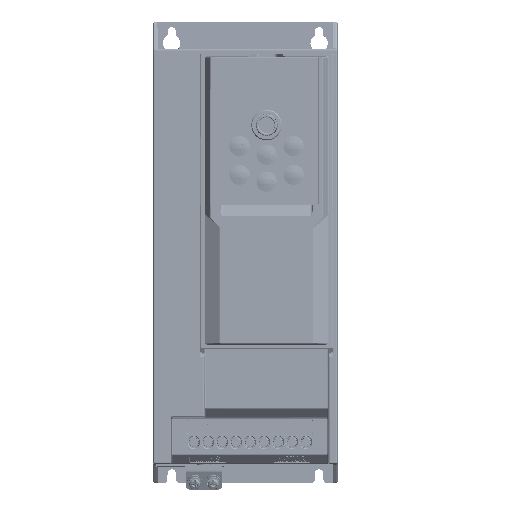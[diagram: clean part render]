
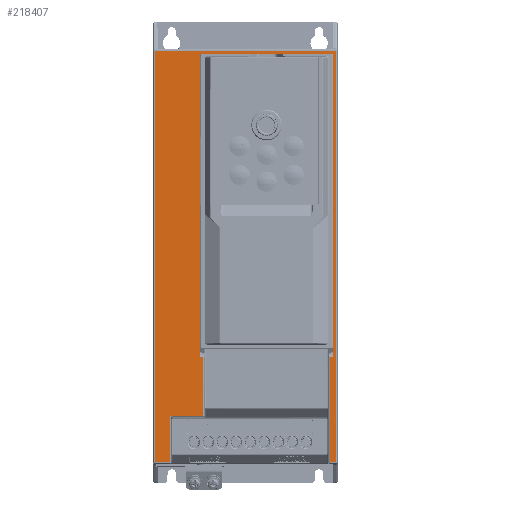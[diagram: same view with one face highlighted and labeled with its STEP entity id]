
A CAD part, top view. The second image highlights one B-rep face of the part: STEP entity #218407.
In plain terms, the highlighted planar face has unit normal (0, 0, 1).
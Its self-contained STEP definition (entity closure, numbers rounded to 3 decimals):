
#25640=DIRECTION('',(-1.,0.,0.));
#25641=VECTOR('',#25640,1.694);
#25642=CARTESIAN_POINT('',(36.129,-164.399,0.));
#25643=LINE('',#25642,#25641);
#25647=DIRECTION('',(-1.,0.,0.));
#25648=VECTOR('',#25647,70.658);
#25649=CARTESIAN_POINT('',(35.329,0.129,0.));
#25650=LINE('',#25649,#25648);
#25654=DIRECTION('',(1.,0.,0.));
#25655=VECTOR('',#25654,1.694);
#25656=CARTESIAN_POINT('',(-36.129,-164.399,0.));
#25657=LINE('',#25656,#25655);
#25661=DIRECTION('',(0.,-1.,0.));
#25662=VECTOR('',#25661,31.939);
#25663=CARTESIAN_POINT('',(-34.435,-164.399,0.));
#25664=LINE('',#25663,#25662);
#25668=DIRECTION('',(1.,0.,0.));
#25669=VECTOR('',#25668,16.627);
#25670=CARTESIAN_POINT('',(-51.062,-196.339,
0.));
#25671=LINE('',#25670,#25669);
#25675=CARTESIAN_POINT('',(-52.661,-197.938,
0.));
#25676=CARTESIAN_POINT('',(-52.661,-197.78,
0.));
#25677=CARTESIAN_POINT('',(-52.618,-197.482,
0.));
#25678=CARTESIAN_POINT('',(-52.424,-197.061,
0.));
#25679=CARTESIAN_POINT('',(-52.153,-196.747,
0.));
#25680=CARTESIAN_POINT('',(-51.847,-196.529,
0.));
#25681=CARTESIAN_POINT('',(-51.5,-196.383,
0.));
#25682=CARTESIAN_POINT('',(-51.215,-196.339,
0.));
#25683=CARTESIAN_POINT('',(-51.062,-196.339,
0.));
#25688=DIRECTION('',(0.,1.,0.));
#25689=VECTOR('',#25688,23.762);
#25690=CARTESIAN_POINT('',(-52.661,-221.7,0.));
#25691=LINE('',#25690,#25689);
#25695=DIRECTION('',(1.,0.,0.));
#25696=VECTOR('',#25695,8.039);
#25697=CARTESIAN_POINT('',(-60.7,-221.7,0.));
#25698=LINE('',#25697,#25696);
#25702=DIRECTION('',(0.,-1.,0.));
#25703=VECTOR('',#25702,223.4);
#25704=CARTESIAN_POINT('',(-60.7,1.7,0.));
#25705=LINE('',#25704,#25703);
#25709=DIRECTION('',(-1.,0.,0.));
#25710=VECTOR('',#25709,98.4);
#25711=CARTESIAN_POINT('',(37.7,1.7,0.));
#25712=LINE('',#25711,#25710);
#25716=DIRECTION('',(0.,1.,0.));
#25717=VECTOR('',#25716,223.4);
#25718=CARTESIAN_POINT('',(37.7,-221.7,0.));
#25719=LINE('',#25718,#25717);
#25723=DIRECTION('',(1.,0.,0.));
#25724=VECTOR('',#25723,3.265);
#25725=CARTESIAN_POINT('',(34.435,-221.7,0.));
#25726=LINE('',#25725,#25724);
#25730=DIRECTION('',(0.,-1.,0.));
#25731=VECTOR('',#25730,57.301);
#25732=CARTESIAN_POINT('',(34.435,-164.399,0.));
#25733=LINE('',#25732,#25731);
#79410=CARTESIAN_POINT('',(-34.435,-164.399,0.));
#81117=DIRECTION('',(0.,1.,0.));
#81118=VECTOR('',#81117,163.728);
#81119=CARTESIAN_POINT('',(-36.129,-164.399,0.));
#81120=LINE('',#81119,#81118);
#81163=CARTESIAN_POINT('',(-36.129,-0.671,0.));
#81164=CARTESIAN_POINT('',(-36.129,-0.404,0.));
#81165=CARTESIAN_POINT('',(-35.927,-0.073,0.));
#81166=CARTESIAN_POINT('',(-35.596,0.129,0.));
#81167=CARTESIAN_POINT('',(-35.329,0.129,0.));
#81186=CARTESIAN_POINT('',(35.329,0.129,0.));
#81187=CARTESIAN_POINT('',(35.596,0.129,0.));
#81188=CARTESIAN_POINT('',(35.927,-0.073,0.));
#81189=CARTESIAN_POINT('',(36.129,-0.404,0.));
#81190=CARTESIAN_POINT('',(36.129,-0.671,0.));
#81195=DIRECTION('',(0.,-1.,0.));
#81196=VECTOR('',#81195,163.728);
#81197=CARTESIAN_POINT('',(36.129,-0.671,0.));
#81198=LINE('',#81197,#81196);
#81256=CARTESIAN_POINT('',(34.435,-164.399,0.));
#198826=CARTESIAN_POINT('',(-36.129,-0.671,0.));
#198827=VERTEX_POINT('',#198826);
#198828=CARTESIAN_POINT('',(-35.329,0.129,0.));
#198829=VERTEX_POINT('',#198828);
#198832=CARTESIAN_POINT('',(35.329,0.129,0.));
#198833=VERTEX_POINT('',#198832);
#198834=CARTESIAN_POINT('',(36.129,-0.671,0.));
#198835=VERTEX_POINT('',#198834);
#199305=CARTESIAN_POINT('',(34.435,-221.7,0.));
#199306=CARTESIAN_POINT('',(37.7,-221.7,0.));
#199307=VERTEX_POINT('',#199305);
#199308=VERTEX_POINT('',#199306);
#199313=CARTESIAN_POINT('',(37.7,1.7,0.));
#199314=VERTEX_POINT('',#199313);
#199319=CARTESIAN_POINT('',(-60.7,1.7,0.));
#199320=VERTEX_POINT('',#199319);
#199325=CARTESIAN_POINT('',(-60.7,-221.7,0.));
#199326=VERTEX_POINT('',#199325);
#199331=CARTESIAN_POINT('',(-52.661,-221.7,0.));
#199332=VERTEX_POINT('',#199331);
#199337=CARTESIAN_POINT('',(-52.661,-197.938,
0.));
#199338=VERTEX_POINT('',#199337);
#199341=VERTEX_POINT('',#25683);
#199345=CARTESIAN_POINT('',(-34.435,-196.339,0.));
#199346=VERTEX_POINT('',#199345);
#199370=VERTEX_POINT('',#81256);
#199372=CARTESIAN_POINT('',(36.129,-164.399,0.));
#199373=VERTEX_POINT('',#199372);
#199398=VERTEX_POINT('',#79410);
#199401=CARTESIAN_POINT('',(-36.129,-164.399,0.));
#199402=VERTEX_POINT('',#199401);
#218366=CARTESIAN_POINT('',(0.,0.,0.));
#218367=DIRECTION('',(0.,0.,1.));
#218368=DIRECTION('',(1.,0.,0.));
#218369=AXIS2_PLACEMENT_3D('',#218366,#218367,#218368);
#218370=PLANE('',#218369);
#218372=ORIENTED_EDGE('',*,*,#218371,.F.);
#218374=ORIENTED_EDGE('',*,*,#218373,.F.);
#218376=ORIENTED_EDGE('',*,*,#218375,.F.);
#218378=ORIENTED_EDGE('',*,*,#218377,.T.);
#218380=ORIENTED_EDGE('',*,*,#218379,.F.);
#218382=ORIENTED_EDGE('',*,*,#218381,.F.);
#218384=ORIENTED_EDGE('',*,*,#218383,.T.);
#218386=ORIENTED_EDGE('',*,*,#218385,.T.);
#218388=ORIENTED_EDGE('',*,*,#218387,.F.);
#218390=ORIENTED_EDGE('',*,*,#218389,.F.);
#218392=ORIENTED_EDGE('',*,*,#218391,.F.);
#218394=ORIENTED_EDGE('',*,*,#218393,.F.);
#218396=ORIENTED_EDGE('',*,*,#218395,.F.);
#218398=ORIENTED_EDGE('',*,*,#218397,.F.);
#218400=ORIENTED_EDGE('',*,*,#218399,.F.);
#218402=ORIENTED_EDGE('',*,*,#218401,.F.);
#218404=ORIENTED_EDGE('',*,*,#218403,.F.);
#218405=EDGE_LOOP('',(#218372,#218374,#218376,#218378,#218380,#218382,#218384,
#218386,#218388,#218390,#218392,#218394,#218396,#218398,#218400,#218402,
#218404));
#218406=FACE_OUTER_BOUND('',#218405,.F.);
#218407=ADVANCED_FACE('',(#218406),#218370,.T.);
#25684=B_SPLINE_CURVE_WITH_KNOTS('',3,(#25675,#25676,#25677,#25678,#25679,
#25680,#25681,#25682,#25683),.UNSPECIFIED.,.F.,.F.,(4,1,1,1,1,1,4),(0.,
0.167,0.333,0.5,0.667,0.833,
1.),.UNSPECIFIED.);
#81168=B_SPLINE_CURVE_WITH_KNOTS('',3,(#81163,#81164,#81165,#81166,#81167),
.UNSPECIFIED.,.F.,.F.,(4,1,4),(0.,0.5,1.),.UNSPECIFIED.);
#81191=B_SPLINE_CURVE_WITH_KNOTS('',3,(#81186,#81187,#81188,#81189,#81190),
.UNSPECIFIED.,.F.,.F.,(4,1,4),(0.,0.5,1.),.UNSPECIFIED.);
#218371=EDGE_CURVE('',#199373,#199370,#25643,.T.);
#218373=EDGE_CURVE('',#198835,#199373,#81198,.T.);
#218375=EDGE_CURVE('',#198833,#198835,#81191,.T.);
#218377=EDGE_CURVE('',#198833,#198829,#25650,.T.);
#218379=EDGE_CURVE('',#198827,#198829,#81168,.T.);
#218381=EDGE_CURVE('',#199402,#198827,#81120,.T.);
#218383=EDGE_CURVE('',#199402,#199398,#25657,.T.);
#218385=EDGE_CURVE('',#199398,#199346,#25664,.T.);
#218387=EDGE_CURVE('',#199341,#199346,#25671,.T.);
#218389=EDGE_CURVE('',#199338,#199341,#25684,.T.);
#218391=EDGE_CURVE('',#199332,#199338,#25691,.T.);
#218393=EDGE_CURVE('',#199326,#199332,#25698,.T.);
#218395=EDGE_CURVE('',#199320,#199326,#25705,.T.);
#218397=EDGE_CURVE('',#199314,#199320,#25712,.T.);
#218399=EDGE_CURVE('',#199308,#199314,#25719,.T.);
#218401=EDGE_CURVE('',#199307,#199308,#25726,.T.);
#218403=EDGE_CURVE('',#199370,#199307,#25733,.T.);
